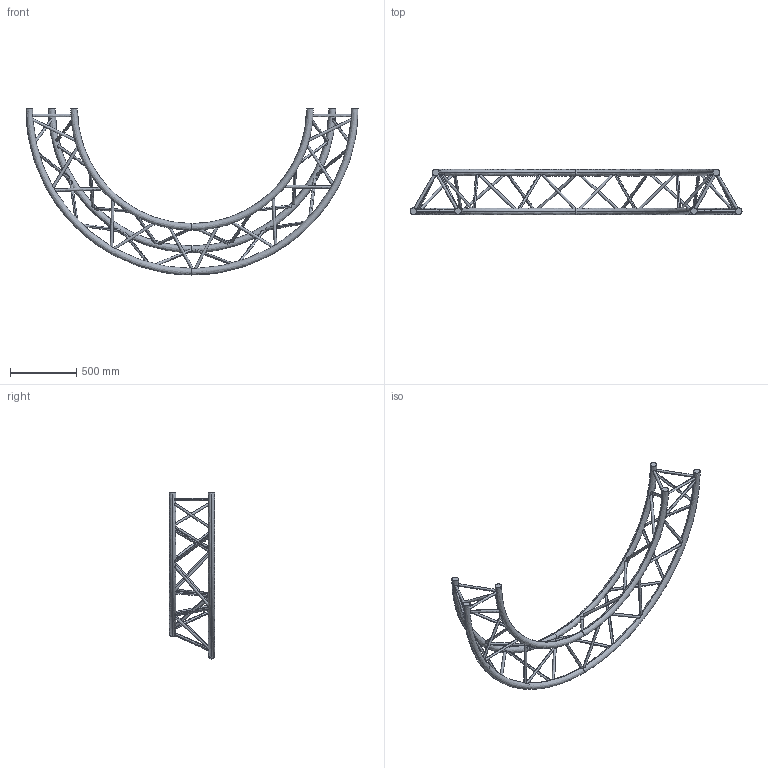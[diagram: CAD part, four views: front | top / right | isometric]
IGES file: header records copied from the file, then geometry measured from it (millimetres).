
Start section: SolidWorks IGES file using analytic representation for surfaces
Global section: file name: K:\BIBLIO\asd_biblio\SX390\Cercles\SXC39PH\SXC39250PH\SXC39250PH.IGS; native system: SolidWorks 2009; preprocessor: SolidWorks 2009; author: des3; date: 091021.132405; units: millimetre
Bounding box: 2500 x 341.85 x 1250 mm (x, y, z)
Surface area: 2466838.3 mm2 (no closed solid volume)
Topology: 0 solids, 0 shells, 102 faces, 7031 edges, 7031 vertices
Faces by surface type: revolution 84, bspline 18
